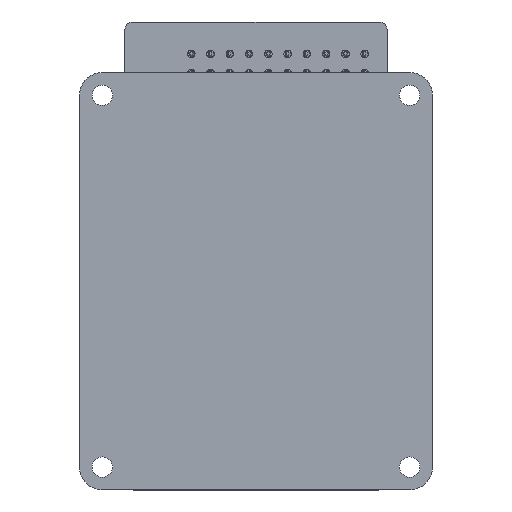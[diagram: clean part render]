
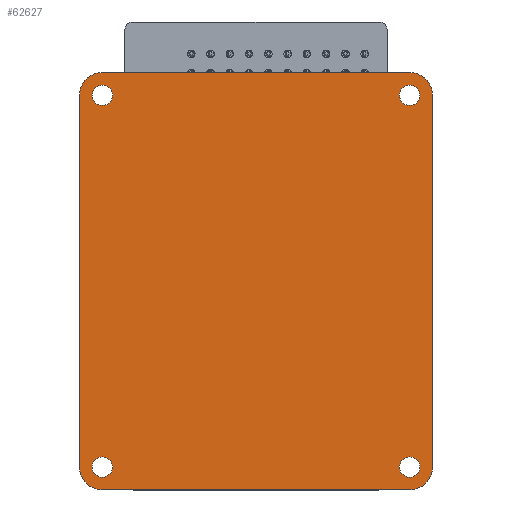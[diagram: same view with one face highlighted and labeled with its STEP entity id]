
A CAD part, front view. The second image highlights one B-rep face of the part: STEP entity #62627.
In plain terms, the highlighted planar face has unit normal (0, -1, 0) as drawn and (0, 0, -1) by its records, which use the part's own axes.
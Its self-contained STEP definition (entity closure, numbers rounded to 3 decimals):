
#1931 = ORIENTED_EDGE ( 'NONE', *, *, #60038, .T. ) ;
#2119 = DIRECTION ( 'NONE',  ( 0., 1., 0. ) ) ;
#2235 = EDGE_CURVE ( 'NONE', #32628, #63041, #55506, .T. ) ;
#2752 = CIRCLE ( 'NONE', #12328, 3. ) ;
#3046 = VERTEX_POINT ( 'NONE', #10730 ) ;
#3560 = VERTEX_POINT ( 'NONE', #40336 ) ;
#4977 = CARTESIAN_POINT ( 'NONE',  ( -36.681, 5.953, 11.43 ) ) ;
#4993 = CARTESIAN_POINT ( 'NONE',  ( -39.681, -43.047, 11.43 ) ) ;
#6305 = VERTEX_POINT ( 'NONE', #59779 ) ;
#6412 = AXIS2_PLACEMENT_3D ( 'NONE', #11474, #47433, #16618 ) ;
#8499 = VERTEX_POINT ( 'NONE', #24449 ) ;
#8807 = CIRCLE ( 'NONE', #58741, 3. ) ;
#8876 = FACE_OUTER_BOUND ( 'NONE', #33496, .T. ) ;
#9178 = DIRECTION ( 'NONE',  ( 0., -1., 0. ) ) ;
#10144 = DIRECTION ( 'NONE',  ( 0., 1., 0. ) ) ;
#10478 = FACE_BOUND ( 'NONE', #60681, .T. ) ;
#10730 = CARTESIAN_POINT ( 'NONE',  ( -36.681, 8.953, 11.43 ) ) ;
#10851 = LINE ( 'NONE', #21524, #25268 ) ;
#11474 = CARTESIAN_POINT ( 'NONE',  ( -36.681, 5.953, 11.43 ) ) ;
#11619 = EDGE_CURVE ( 'NONE', #21386, #3560, #52524, .T. ) ;
#11863 = DIRECTION ( 'NONE',  ( 0., 0., 1. ) ) ;
#12239 = DIRECTION ( 'NONE',  ( 0., 0., 1. ) ) ;
#12328 = AXIS2_PLACEMENT_3D ( 'NONE', #30412, #66361, #35590 ) ;
#12441 = CARTESIAN_POINT ( 'NONE',  ( -36.681, -43.047, 11.43 ) ) ;
#12895 = VECTOR ( 'NONE', #9178, 1000. ) ;
#13262 = DIRECTION ( 'NONE',  ( 0., -1., 0. ) ) ;
#13630 = ORIENTED_EDGE ( 'NONE', *, *, #2235, .F. ) ;
#15877 = VERTEX_POINT ( 'NONE', #29901 ) ;
#16618 = DIRECTION ( 'NONE',  ( 0., 1., 0. ) ) ;
#17018 = ORIENTED_EDGE ( 'NONE', *, *, #23321, .T. ) ;
#17255 = VECTOR ( 'NONE', #27547, 1000. ) ;
#17597 = DIRECTION ( 'NONE',  ( 0., 1., 0. ) ) ;
#18085 = ORIENTED_EDGE ( 'NONE', *, *, #24734, .T. ) ;
#20338 = CARTESIAN_POINT ( 'NONE',  ( 3.819, 8.953, 11.43 ) ) ;
#21386 = VERTEX_POINT ( 'NONE', #50798 ) ;
#21524 = CARTESIAN_POINT ( 'NONE',  ( -39.681, 8.953, 11.43 ) ) ;
#22338 = CARTESIAN_POINT ( 'NONE',  ( -39.681, -46.047, 11.43 ) ) ;
#22549 = FACE_BOUND ( 'NONE', #60762, .T. ) ;
#23090 = CIRCLE ( 'NONE', #43192, 1.35 ) ;
#23321 = EDGE_CURVE ( 'NONE', #6305, #6305, #23090, .T. ) ;
#24416 = EDGE_CURVE ( 'NONE', #34307, #34559, #58271, .T. ) ;
#24449 = CARTESIAN_POINT ( 'NONE',  ( -36.681, 7.303, 11.43 ) ) ;
#24734 = EDGE_CURVE ( 'NONE', #3560, #34559, #2752, .T. ) ;
#25268 = VECTOR ( 'NONE', #52334, 1000. ) ;
#25282 = CIRCLE ( 'NONE', #45263, 1.35 ) ;
#25675 = ORIENTED_EDGE ( 'NONE', *, *, #24416, .F. ) ;
#26367 = EDGE_LOOP ( 'NONE', ( #56171 ) ) ;
#26523 = CARTESIAN_POINT ( 'NONE',  ( -36.681, -43.047, 11.43 ) ) ;
#26600 = EDGE_CURVE ( 'NONE', #60537, #21386, #41062, .T. ) ;
#27547 = DIRECTION ( 'NONE',  ( 1., 0., 0. ) ) ;
#27788 = PLANE ( 'NONE',  #56774 ) ;
#28596 = CARTESIAN_POINT ( 'NONE',  ( 6.819, 8.953, 11.43 ) ) ;
#28691 = CARTESIAN_POINT ( 'NONE',  ( 3.819, -43.047, 11.43 ) ) ;
#29677 = DIRECTION ( 'NONE',  ( 0., 0., -1. ) ) ;
#29685 = CARTESIAN_POINT ( 'NONE',  ( -39.681, 8.953, 11.43 ) ) ;
#29901 = CARTESIAN_POINT ( 'NONE',  ( -36.681, -41.697, 11.43 ) ) ;
#30412 = CARTESIAN_POINT ( 'NONE',  ( 3.819, -43.047, 11.43 ) ) ;
#30871 = EDGE_CURVE ( 'NONE', #15877, #15877, #32688, .T. ) ;
#31658 = DIRECTION ( 'NONE',  ( 0., 1., 0. ) ) ;
#32628 = VERTEX_POINT ( 'NONE', #43470 ) ;
#32688 = CIRCLE ( 'NONE', #56769, 1.35 ) ;
#33496 = EDGE_LOOP ( 'NONE', ( #59170, #18085, #25675, #64392, #13630, #40960, #1931, #58255 ) ) ;
#33851 = DIRECTION ( 'NONE',  ( 0., 1., 0. ) ) ;
#34307 = VERTEX_POINT ( 'NONE', #37463 ) ;
#34559 = VERTEX_POINT ( 'NONE', #59683 ) ;
#35590 = DIRECTION ( 'NONE',  ( 0., 1., 0. ) ) ;
#37259 = VECTOR ( 'NONE', #13262, 1000. ) ;
#37463 = CARTESIAN_POINT ( 'NONE',  ( -36.681, -46.047, 11.43 ) ) ;
#37855 = FACE_BOUND ( 'NONE', #26367, .T. ) ;
#38931 = EDGE_CURVE ( 'NONE', #32628, #3046, #53728, .T. ) ;
#40336 = CARTESIAN_POINT ( 'NONE',  ( 6.819, -43.047, 11.43 ) ) ;
#40934 = DIRECTION ( 'NONE',  ( 0., 0., 1. ) ) ;
#40960 = ORIENTED_EDGE ( 'NONE', *, *, #38931, .T. ) ;
#41062 = CIRCLE ( 'NONE', #45993, 3. ) ;
#42642 = CARTESIAN_POINT ( 'NONE',  ( 3.819, 5.953, 11.43 ) ) ;
#43096 = VERTEX_POINT ( 'NONE', #54123 ) ;
#43192 = AXIS2_PLACEMENT_3D ( 'NONE', #42642, #11863, #47837 ) ;
#43423 = ORIENTED_EDGE ( 'NONE', *, *, #66732, .T. ) ;
#43470 = CARTESIAN_POINT ( 'NONE',  ( -39.681, 5.953, 11.43 ) ) ;
#45263 = AXIS2_PLACEMENT_3D ( 'NONE', #28691, #64625, #33851 ) ;
#45993 = AXIS2_PLACEMENT_3D ( 'NONE', #60435, #29677, #65610 ) ;
#47433 = DIRECTION ( 'NONE',  ( 0., 0., -1. ) ) ;
#47837 = DIRECTION ( 'NONE',  ( 0., 1., 0. ) ) ;
#47940 = AXIS2_PLACEMENT_3D ( 'NONE', #4977, #40934, #10144 ) ;
#48412 = DIRECTION ( 'NONE',  ( 0., 0., -1. ) ) ;
#49907 = FACE_BOUND ( 'NONE', #51086, .T. ) ;
#50477 = ORIENTED_EDGE ( 'NONE', *, *, #30871, .T. ) ;
#50798 = CARTESIAN_POINT ( 'NONE',  ( 6.819, 5.953, 11.43 ) ) ;
#51086 = EDGE_LOOP ( 'NONE', ( #50477 ) ) ;
#52282 = CIRCLE ( 'NONE', #47940, 1.35 ) ;
#52334 = DIRECTION ( 'NONE',  ( 1., 0., 0. ) ) ;
#52524 = LINE ( 'NONE', #28596, #37259 ) ;
#53524 = EDGE_CURVE ( 'NONE', #34307, #63041, #8807, .T. ) ;
#53728 = CIRCLE ( 'NONE', #6412, 3. ) ;
#54123 = CARTESIAN_POINT ( 'NONE',  ( 3.819, -41.697, 11.43 ) ) ;
#55506 = LINE ( 'NONE', #29685, #12895 ) ;
#56171 = ORIENTED_EDGE ( 'NONE', *, *, #56426, .T. ) ;
#56426 = EDGE_CURVE ( 'NONE', #43096, #43096, #25282, .T. ) ;
#56769 = AXIS2_PLACEMENT_3D ( 'NONE', #26523, #62450, #31658 ) ;
#56774 = AXIS2_PLACEMENT_3D ( 'NONE', #63732, #12239, #2119 ) ;
#58255 = ORIENTED_EDGE ( 'NONE', *, *, #26600, .T. ) ;
#58271 = LINE ( 'NONE', #22338, #17255 ) ;
#58741 = AXIS2_PLACEMENT_3D ( 'NONE', #12441, #48412, #17597 ) ;
#59170 = ORIENTED_EDGE ( 'NONE', *, *, #11619, .T. ) ;
#59683 = CARTESIAN_POINT ( 'NONE',  ( 3.819, -46.047, 11.43 ) ) ;
#59779 = CARTESIAN_POINT ( 'NONE',  ( 3.819, 7.303, 11.43 ) ) ;
#60038 = EDGE_CURVE ( 'NONE', #3046, #60537, #10851, .T. ) ;
#60435 = CARTESIAN_POINT ( 'NONE',  ( 3.819, 5.953, 11.43 ) ) ;
#60537 = VERTEX_POINT ( 'NONE', #20338 ) ;
#60681 = EDGE_LOOP ( 'NONE', ( #17018 ) ) ;
#60762 = EDGE_LOOP ( 'NONE', ( #43423 ) ) ;
#62450 = DIRECTION ( 'NONE',  ( 0., 0., 1. ) ) ;
#62627 = ADVANCED_FACE ( 'NONE', ( #37855, #49907, #22549, #10478, #8876 ), #27788, .F. ) ;
#63041 = VERTEX_POINT ( 'NONE', #4993 ) ;
#63732 = CARTESIAN_POINT ( 'NONE',  ( -39.681, 8.953, 11.43 ) ) ;
#64392 = ORIENTED_EDGE ( 'NONE', *, *, #53524, .T. ) ;
#64625 = DIRECTION ( 'NONE',  ( 0., 0., 1. ) ) ;
#65610 = DIRECTION ( 'NONE',  ( 0., 1., 0. ) ) ;
#66361 = DIRECTION ( 'NONE',  ( 0., 0., -1. ) ) ;
#66732 = EDGE_CURVE ( 'NONE', #8499, #8499, #52282, .T. ) ;
